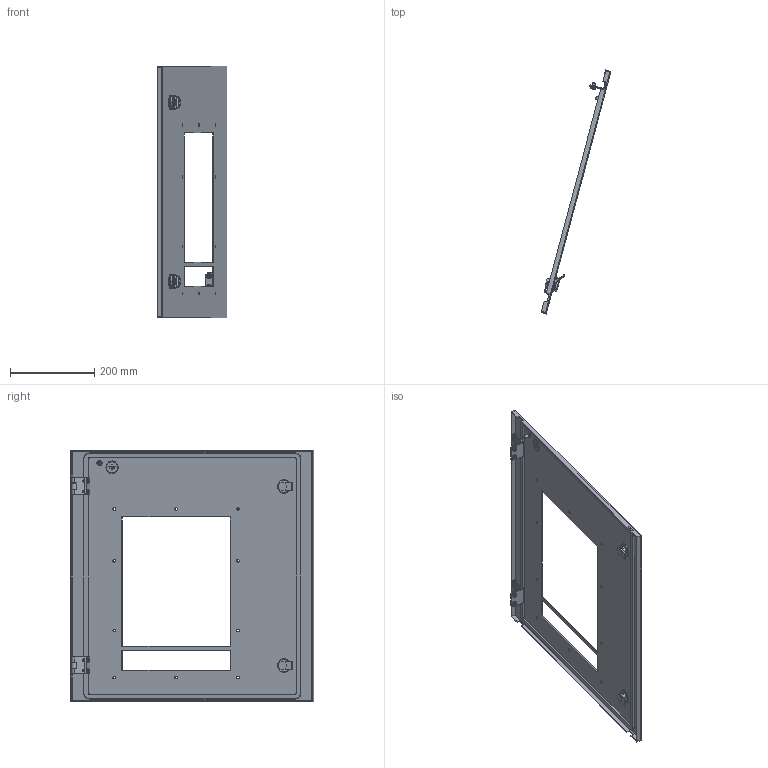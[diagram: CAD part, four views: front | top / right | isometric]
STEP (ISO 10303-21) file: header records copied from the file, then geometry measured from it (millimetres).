
FILE_DESCRIPTION (( 'STEP AP214' ), '1' );
FILE_NAME ('FO-00-ESDAB-060-060 Äâåðü ñåêöèîííàÿ âíåøíÿÿ ñ âûðåçîì äëÿ ARMAT ACB òèïîðàçìåð AIIB âûê. èñï. 3II4P 600õ600 ìì.STEP', '2025-08-20T06:45:45', ( '' ), ( '' ), 'SwSTEP 2.0', 'SolidWorks 2023', '' );
FILE_SCHEMA (( 'AUTOMOTIVE_DESIGN' ));
Length unit declared in the file: millimetre
Products named in the file (4): FO-00-ESDAB-060-060 Дверь секционная внешняя с вырезом для ARMAT ACB типоразмер AIIB вык. исп. 3II4P 600х600 мм; Петля_13.STEP; Дверь секционная внешняя с вырезом для ARMAT ACB 600х600.STEP; FO-00-ESDAB-060-060 Дверь секционная внешняя с вырезом для ARMAT ACB типоразмер AIIB вык. исп. 3II4P 600х600 мм.STEP
Assembly tree (4 placements, depth 3):
  FO-00-ESDAB-060-060 Дверь секционная внешняя с вырезом для ARMAT ACB типоразмер AIIB вык. исп. 3II4P 600х600 мм
    FO-00-ESDAB-060-060 Дверь секционная внешняя с вырезом для ARMAT ACB типоразмер AIIB вык. исп. 3II4P 600х600 мм.STEP
      Дверь секционная внешняя с вырезом для ARMAT ACB 600х600.STEP
      Петля_13.STEP  x2
Bounding box: 165.93 x 578 x 596 mm (x, y, z)
Volume: 699209.6 mm3; surface area: 617170.1 mm2
Topology: 3 solids, 12 shells, 735 faces, 1893 edges, 1224 vertices
Faces by surface type: plane 351, cylinder 288, torus 34, cone 32, bspline 30
Entity records: 21706 total; most frequent: CARTESIAN_POINT 5946, ORIENTED_EDGE 3276, DIRECTION 3258, EDGE_CURVE 1638, AXIS2_PLACEMENT_3D 1124, VERTEX_POINT 1062, LINE 1010, VECTOR 1010
